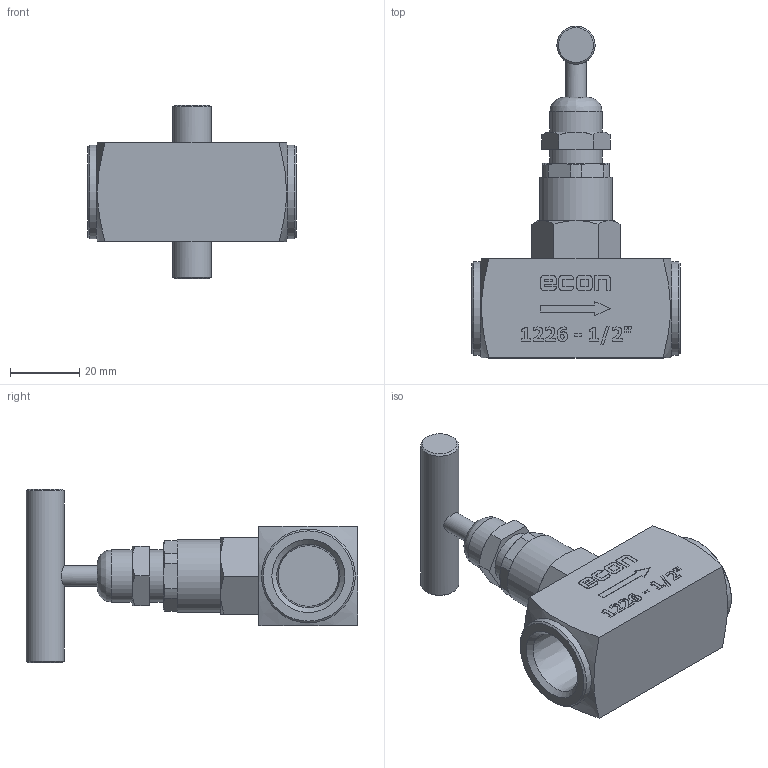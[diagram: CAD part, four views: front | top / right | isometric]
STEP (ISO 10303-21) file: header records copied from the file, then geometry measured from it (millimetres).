
FILE_DESCRIPTION(/* description */ ('Eriks item no: 11812063'),/* implementation_level */ '2;1');
FILE_NAME(/* name */ '1226-015-PN400.stp',/* time_stamp */ '2024-02-15T11:47:40+01:00',/* author */ ('roger.thijssen'),/* organization */ (''),/* preprocessor_version */ 'ST-DEVELOPER v19.2',/* originating_system */ 'Autodesk Inventor 2024',/* authorisation */ '');
FILE_SCHEMA (('AUTOMOTIVE_DESIGN { 1 0 10303 214 3 1 1 }'));
Length unit declared in the file: millimetre
Products named in the file (1): Needle valve, 1226-015-PN400
Bounding box: 60 x 95.5 x 50 mm (x, y, z)
Volume: 57799.1 mm3; surface area: 14665.7 mm2
Topology: 1 solids, 1 shells, 258 faces, 659 edges, 431 vertices
Faces by surface type: plane 151, bspline 51, cone 28, cylinder 28
Full cylindrical faces by diameter (mm): 6 x1, 11 x1, 15 x2, 17.475 x2, 21 x1, 27 x2
Entity records: 8564 total; most frequent: CARTESIAN_POINT 2392, ORIENTED_EDGE 1318, DIRECTION 1013, EDGE_CURVE 659, VERTEX_POINT 431, LINE 425, VECTOR 425, AXIS2_PLACEMENT_3D 294
